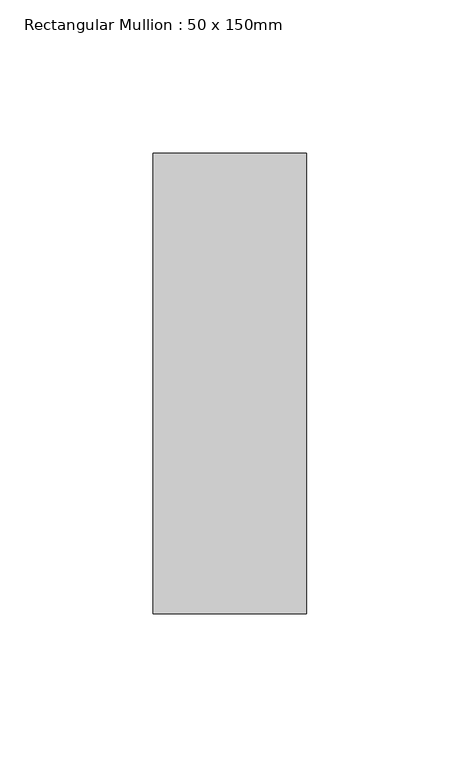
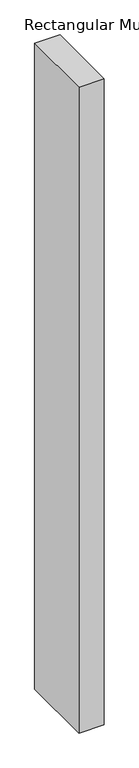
"""IFC4 building model written with IfcOpenShell, lengths in millimetres: member geometry, Rectangular Mullion : 50 x 150mm."""

import ifcopenshell
import ifcopenshell.guid

model = None  # the IFC model being written
_history = None  # IfcOwnerHistory: only IFC2X3 demands one
_inside = {}  # id of a spatial element -> (the spatial element, [elements in it])
_under = {}  # id of a project, library or spatial element -> (it, [spatial elements below it])
_declared = {}  # id of a project -> (the project, [libraries it declares])
_typed = {}  # id of a type object -> (the type object, [elements of that type])
_made_of = {}  # id of a material, layer set ... -> (it, [elements and type objects made of it])


def new_model(schema):
    """Start an empty IFC model of exactly this schema.

    Asked for "IFC4X3", IfcOpenShell would pick the latest addendum, in which some entities
    have other attributes; the version numbers below select the first issue.
    IFC2X3 requires an IfcOwnerHistory on every rooted entity: one is made here for all.
    """
    global model, _history
    if schema == "IFC4X3":
        model = ifcopenshell.file(schema_version=(4, 3, 0, 0))
    else:
        model = ifcopenshell.file(schema=schema)
    _inside.clear()
    _under.clear()
    _declared.clear()
    _typed.clear()
    _made_of.clear()
    _history = None
    if model.schema == "IFC2X3":
        org = make("IfcOrganization", Name="unknown")
        user = make(
            "IfcPersonAndOrganization",
            ThePerson=make("IfcPerson", FamilyName="unknown"),
            TheOrganization=org,
        )
        app = make(
            "IfcApplication",
            ApplicationDeveloper=org,
            Version="unknown",
            ApplicationFullName="unknown",
            ApplicationIdentifier="unknown",
        )
        _history = make(
            "IfcOwnerHistory",
            OwningUser=user,
            OwningApplication=app,
            ChangeAction="ADDED",
            CreationDate=0,
        )
    return model


def make(cls, **values):
    """One entity of the class cls with the attributes given. An attribute that is None is left unset."""
    return model.create_entity(
        cls, **{name: value for name, value in values.items() if value is not None}
    )


def rooted(cls, **values):
    """An entity with a GlobalId (a new one), such as an element, a storey or a relation."""
    return make(cls, GlobalId=ifcopenshell.guid.new(), OwnerHistory=_history, **values)


def si_unit(unit_type, name, prefix=None):
    """IfcSIUnit, for example si_unit("LENGTHUNIT", "METRE", prefix="MILLI")."""
    return make("IfcSIUnit", UnitType=unit_type, Prefix=prefix, Name=name)


def assignment(units):
    """IfcUnitAssignment: the units of a project."""
    return None if units is None else make("IfcUnitAssignment", Units=units)


def point(xyz):
    """IfcCartesianPoint."""
    return None if xyz is None else make("IfcCartesianPoint", Coordinates=xyz)


def direction(xyz):
    """IfcDirection."""
    return None if xyz is None else make("IfcDirection", DirectionRatios=xyz)


def frame(location, z_axis=None, x_axis=None):
    """IfcAxis2Placement3D, a coordinate frame: its origin and axes. An axis left out is left unset."""
    return make(
        "IfcAxis2Placement3D",
        Location=point(location),
        Axis=direction(z_axis),
        RefDirection=direction(x_axis),
    )


def origin():
    """The frame at (0, 0, 0) with its axes left unset."""
    return frame((0.0, 0.0, 0.0))


def place(relative_to, where):
    """IfcLocalPlacement: puts the frame where relative to a parent placement (None: the world)."""
    return make(
        "IfcLocalPlacement", PlacementRelTo=relative_to, RelativePlacement=where
    )


def context(
    kind, dimensions, precision=None, world=None, true_north=None, identifier=None
):
    """IfcGeometricRepresentationContext, for example the 3D "Model" context."""
    return make(
        "IfcGeometricRepresentationContext",
        ContextIdentifier=identifier,
        ContextType=kind,
        CoordinateSpaceDimension=dimensions,
        Precision=precision,
        WorldCoordinateSystem=world,
        TrueNorth=true_north,
    )


def project(units=None, contexts=None):
    """IfcProject with its units and contexts."""
    return rooted(
        "IfcProject",
        Name="project",
        RepresentationContexts=contexts,
        UnitsInContext=assignment(units),
    )


def spatial(cls, under=None, at=None, **own):
    """A site, building, storey or space (cls), placed at a placement, below another one or the project."""
    s = rooted(cls, ObjectPlacement=at, **own)
    if under is not None:
        _under.setdefault(under.id(), (under, []))[1].append(s)
    return s


def polyline(points):
    """IfcPolyline through the points."""
    return make("IfcPolyline", Points=[point(p) for p in points])


def outline(outer, holes=None, kind="AREA"):
    """IfcArbitraryClosedProfileDef: a profile drawn as a closed curve; with holes, ...WithVoids."""
    if holes is None:
        return make("IfcArbitraryClosedProfileDef", ProfileType=kind, OuterCurve=outer)
    return make(
        "IfcArbitraryProfileDefWithVoids",
        ProfileType=kind,
        OuterCurve=outer,
        InnerCurves=holes,
    )


def extrude(swept, where, along, depth):
    """IfcExtrudedAreaSolid: the profile swept, set in the frame where, extruded along a direction by depth."""
    return make(
        "IfcExtrudedAreaSolid",
        SweptArea=swept,
        Position=where,
        ExtrudedDirection=direction(along),
        Depth=depth,
    )


def shape(context_of_items, identifier, shape_type, items):
    """IfcShapeRepresentation: the items that make up one representation, for example the "Body"."""
    return make(
        "IfcShapeRepresentation",
        ContextOfItems=context_of_items,
        RepresentationIdentifier=identifier,
        RepresentationType=shape_type,
        Items=items,
    )


def source(mapping_origin, context_of_items, identifier, shape_type, items):
    """IfcRepresentationMap: a shape defined once, which mapped items show again and again."""
    return make(
        "IfcRepresentationMap",
        MappingOrigin=mapping_origin,
        MappedRepresentation=shape(context_of_items, identifier, shape_type, items),
    )


def transform(
    local_origin,
    x_axis=None,
    y_axis=None,
    z_axis=None,
    scale=None,
    scale2=None,
    scale3=None,
    uniform=True,
):
    """IfcCartesianTransformationOperator3D, or its non-uniform kind. x_axis, y_axis, z_axis: its Axis1, 2, 3."""
    if uniform:
        return make(
            "IfcCartesianTransformationOperator3D",
            Axis1=direction(x_axis),
            Axis2=direction(y_axis),
            LocalOrigin=point(local_origin),
            Scale=scale,
            Axis3=direction(z_axis),
        )
    return make(
        "IfcCartesianTransformationOperator3DnonUniform",
        Axis1=direction(x_axis),
        Axis2=direction(y_axis),
        LocalOrigin=point(local_origin),
        Scale=scale,
        Axis3=direction(z_axis),
        Scale2=scale2,
        Scale3=scale3,
    )


def mapped(mapping_source, mapping_target):
    """IfcMappedItem: shows the shape of a source again, moved by a transform."""
    return make(
        "IfcMappedItem", MappingSource=mapping_source, MappingTarget=mapping_target
    )


def made_of(thing, what):
    """Note that an element or type object is made of a material, layer set ...; save() writes the relation."""
    if what is not None:
        _made_of.setdefault(what.id(), (what, []))[1].append(thing)
    return thing


def element(
    cls,
    number,
    at=None,
    inside=None,
    cuts=None,
    type_object=None,
    material=None,
    context=None,
    identifier="Body",
    shape_type=None,
    held_by="IfcProductDefinitionShape",
    body=None,
    shapes=None,
    **own,
):
    """One element of the class cls, such as IfcWall. Its Tag is "e" and its number.

    at: its placement. inside: the storey or other place that contains it. cuts: it is an
    opening in that element (IfcRelVoidsElement). A single representation is given by context,
    identifier, shape_type and body (its items); several are given by shapes. held_by: the class
    of the entity that holds the representations. save() writes the other relations.
    """
    e = rooted(cls, Tag="e%d" % number, ObjectPlacement=at, **own)
    if body is not None:
        shapes = [shape(context, identifier, shape_type, body)]
    if shapes is not None:
        e.Representation = make(held_by, Representations=shapes)
    if inside is not None:
        _inside.setdefault(inside.id(), (inside, []))[1].append(e)
    if cuts is not None:
        rooted(
            "IfcRelVoidsElement", RelatingBuildingElement=cuts, RelatedOpeningElement=e
        )
    if type_object is not None:
        _typed.setdefault(type_object.id(), (type_object, []))[1].append(e)
    return made_of(e, material)


def aggregate(whole, parts):
    """IfcRelAggregates: a whole, such as a stair, and the parts it consists of."""
    return rooted("IfcRelAggregates", RelatingObject=whole, RelatedObjects=parts)


def save(model, path):
    """Write the relations noted so far, then the file.

    IfcRelAggregates (storeys below a building ...), IfcRelContainedInSpatialStructure (elements
    in a storey), IfcRelDefinesByType, IfcRelAssociatesMaterial and IfcRelDeclares: one each for
    every whole, place, type object, material and project.
    """
    for whole, parts in _under.values():
        aggregate(whole, parts)
    for where, things in _inside.values():
        rooted(
            "IfcRelContainedInSpatialStructure",
            RelatedElements=things,
            RelatingStructure=where,
        )
    for kind, things in _typed.values():
        rooted("IfcRelDefinesByType", RelatedObjects=things, RelatingType=kind)
    for what, things in _made_of.values():
        rooted("IfcRelAssociatesMaterial", RelatedObjects=things, RelatingMaterial=what)
    for by, libraries in _declared.values():
        rooted("IfcRelDeclares", RelatingContext=by, RelatedDefinitions=libraries)
    model.write(path)


def rectangular_mullion_50_x_150mm_7e0c11a2(model_context):
    return source(origin(), model_context, "Body", "SweptSolid", [
        extrude(outline(polyline([(25.0, 75.0), (25.0, -75.0), (-25.0, -75.0), (-25.0, 75.0), (25.0, 75.0)])), frame((0.0, 0.0, -1340.5538765), z_axis=(0.0, 0.0, 1.0), x_axis=(1.0, 0.0, 0.0)), (0.0, 0.0, 1.0), 1340.5538765),
    ])


if __name__ == "__main__":
    model = new_model("IFC4")
    model_context = context("Model", 3, world=origin())
    ifc_project = project(units=[si_unit("LENGTHUNIT", "METRE", prefix="MILLI")], contexts=[model_context])
    site = spatial("IfcSite", under=ifc_project)
    building = spatial("IfcBuilding", under=site)
    placement = place(None, origin())
    rectangular_mullion_50_x_150mm_shape = rectangular_mullion_50_x_150mm_7e0c11a2(model_context)
    element("IfcMember", 1, ObjectType="Rectangular Mullion : 50 x 150mm", at=placement, inside=building, context=model_context, shape_type="MappedRepresentation", body=[
        mapped(rectangular_mullion_50_x_150mm_shape, transform((0.0, 0.0, 0.0), x_axis=(1.0, 0.0, 0.0), y_axis=(0.0, 1.0, 0.0), z_axis=(0.0, 0.0, 1.0))),
    ])
    save(model, "model.ifc")
